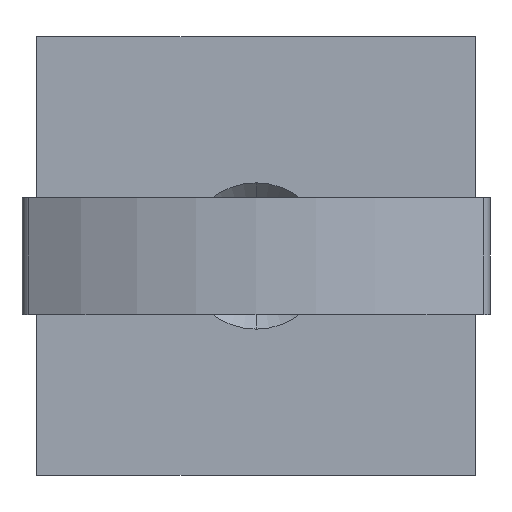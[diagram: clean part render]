
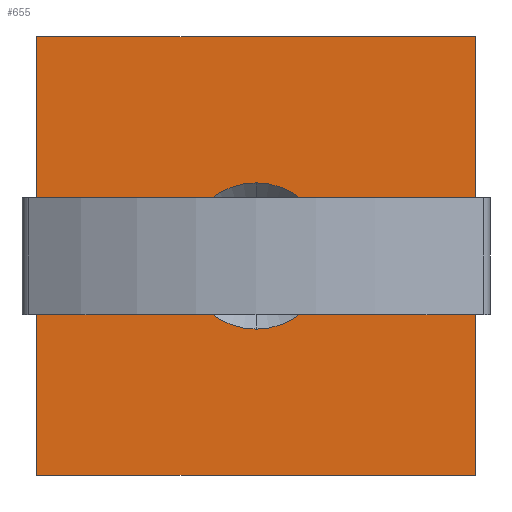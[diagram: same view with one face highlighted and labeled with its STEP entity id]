
A CAD part, front view. The second image highlights one B-rep face of the part: STEP entity #655.
In plain terms, the highlighted planar face has unit normal (0, -1, 0).
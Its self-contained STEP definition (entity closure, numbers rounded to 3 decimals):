
#1 = VERTEX_POINT ( 'NONE', #313 ) ;
#12 = VERTEX_POINT ( 'NONE', #759 ) ;
#29 = CARTESIAN_POINT ( 'NONE',  ( 0., -1.5, 0. ) ) ;
#37 = LINE ( 'NONE', #805, #333 ) ;
#44 = DIRECTION ( 'NONE',  ( -1., 0., 0. ) ) ;
#72 = CARTESIAN_POINT ( 'NONE',  ( 0., -1.5, 2.5 ) ) ;
#114 = ORIENTED_EDGE ( 'NONE', *, *, #783, .F. ) ;
#128 = CARTESIAN_POINT ( 'NONE',  ( -7.5, -1.5, 7.5 ) ) ;
#135 = CARTESIAN_POINT ( 'NONE',  ( -7.5, -1.5, -7.5 ) ) ;
#159 = CARTESIAN_POINT ( 'NONE',  ( 0., -1.5, 0. ) ) ;
#163 = FACE_OUTER_BOUND ( 'NONE', #615, .T. ) ;
#185 = DIRECTION ( 'NONE',  ( 1., 0., 0. ) ) ;
#204 = EDGE_LOOP ( 'NONE', ( #315, #367 ) ) ;
#212 = EDGE_CURVE ( 'NONE', #406, #893, #225, .T. ) ;
#225 = LINE ( 'NONE', #135, #884 ) ;
#244 = CIRCLE ( 'NONE', #307, 2.5 ) ;
#292 = EDGE_CURVE ( 'NONE', #1, #339, #244, .T. ) ;
#307 = AXIS2_PLACEMENT_3D ( 'NONE', #29, #587, #744 ) ;
#313 = CARTESIAN_POINT ( 'NONE',  ( 0., -1.5, -2.5 ) ) ;
#314 = DIRECTION ( 'NONE',  ( 0., 0., 1. ) ) ;
#315 = ORIENTED_EDGE ( 'NONE', *, *, #292, .T. ) ;
#333 = VECTOR ( 'NONE', #529, 1000. ) ;
#339 = VERTEX_POINT ( 'NONE', #72 ) ;
#367 = ORIENTED_EDGE ( 'NONE', *, *, #634, .T. ) ;
#374 = CARTESIAN_POINT ( 'NONE',  ( 7.5, -1.5, -7.5 ) ) ;
#396 = DIRECTION ( 'NONE',  ( 0., 1., 0. ) ) ;
#406 = VERTEX_POINT ( 'NONE', #553 ) ;
#442 = DIRECTION ( 'NONE',  ( 0., 0., 1. ) ) ;
#458 = ORIENTED_EDGE ( 'NONE', *, *, #728, .F. ) ;
#479 = VERTEX_POINT ( 'NONE', #527 ) ;
#492 = VECTOR ( 'NONE', #185, 1000. ) ;
#499 = DIRECTION ( 'NONE',  ( 0., 1., 0. ) ) ;
#523 = CARTESIAN_POINT ( 'NONE',  ( 0., -1.5, 0. ) ) ;
#527 = CARTESIAN_POINT ( 'NONE',  ( -7.5, -1.5, 7.5 ) ) ;
#529 = DIRECTION ( 'NONE',  ( 0., 0., 1. ) ) ;
#553 = CARTESIAN_POINT ( 'NONE',  ( 7.5, -1.5, -7.5 ) ) ;
#587 = DIRECTION ( 'NONE',  ( 0., 1., 0. ) ) ;
#597 = AXIS2_PLACEMENT_3D ( 'NONE', #159, #396, #314 ) ;
#615 = EDGE_LOOP ( 'NONE', ( #689, #636, #114, #458 ) ) ;
#619 = DIRECTION ( 'NONE',  ( 0., 0., -1. ) ) ;
#634 = EDGE_CURVE ( 'NONE', #339, #1, #674, .T. ) ;
#636 = ORIENTED_EDGE ( 'NONE', *, *, #212, .F. ) ;
#651 = VECTOR ( 'NONE', #619, 1000. ) ;
#652 = CARTESIAN_POINT ( 'NONE',  ( -7.5, -1.5, -7.5 ) ) ;
#655 = ADVANCED_FACE ( 'NONE', ( #853, #163 ), #680, .F. ) ;
#674 = CIRCLE ( 'NONE', #597, 2.5 ) ;
#680 = PLANE ( 'NONE',  #855 ) ;
#689 = ORIENTED_EDGE ( 'NONE', *, *, #795, .F. ) ;
#728 = EDGE_CURVE ( 'NONE', #479, #12, #895, .T. ) ;
#744 = DIRECTION ( 'NONE',  ( 0., 0., 1. ) ) ;
#759 = CARTESIAN_POINT ( 'NONE',  ( 7.5, -1.5, 7.5 ) ) ;
#783 = EDGE_CURVE ( 'NONE', #12, #406, #920, .T. ) ;
#795 = EDGE_CURVE ( 'NONE', #893, #479, #37, .T. ) ;
#805 = CARTESIAN_POINT ( 'NONE',  ( -7.5, -1.5, -7.5 ) ) ;
#853 = FACE_BOUND ( 'NONE', #204, .T. ) ;
#855 = AXIS2_PLACEMENT_3D ( 'NONE', #523, #499, #442 ) ;
#884 = VECTOR ( 'NONE', #44, 1000. ) ;
#893 = VERTEX_POINT ( 'NONE', #652 ) ;
#895 = LINE ( 'NONE', #128, #492 ) ;
#920 = LINE ( 'NONE', #374, #651 ) ;
